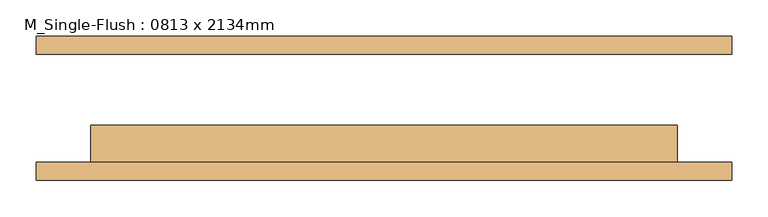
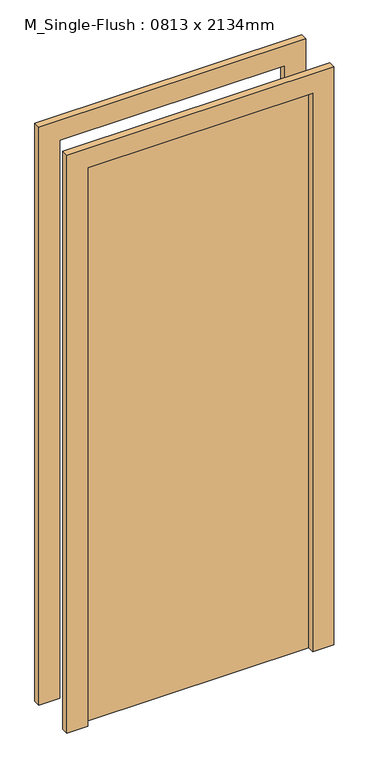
"""IFC4 building model written with IfcOpenShell, lengths in millimetres: door geometry, M_Single-Flush : 0813 x 2134mm."""

from ifc_helpers import new_model, si_unit, frame, origin, origin_with_axes, place, context, project, spatial, polyline, outline, extrude, source, transform, mapped, element, save


def m_single_flush_0813_x_2134mm_06630610(model_context):
    return source(origin(), model_context, "Body", "SweptSolid", [
        extrude(outline(polyline([(2210.0, -482.5), (0.0, -482.5), (0.0, -406.5), (2134.0, -406.5), (2134.0, 406.5), (0.0, 406.5), (0.0, 482.5), (2210.0, 482.5), (2210.0, -482.5)])), frame((0.0, -100.0, 0.0), z_axis=(0.0, 1.0, 0.0), x_axis=(0.0, 0.0, 1.0)), (0.0, 0.0, 1.0), 25.0),
        extrude(outline(polyline([(2210.0, 482.5), (2210.0, -482.5), (0.0, -482.5), (0.0, -406.5), (2134.0, -406.5), (2134.0, 406.5), (0.0, 406.5), (0.0, 482.5), (2210.0, 482.5)])), frame((0.0, 75.0, 0.0), z_axis=(0.0, 1.0, 0.0), x_axis=(0.0, 0.0, 1.0)), (0.0, 0.0, 1.0), 25.0),
        extrude(outline(polyline([(406.5, -24.0), (406.5, -75.0), (-406.5, -75.0), (-406.5, -24.0), (406.5, -24.0)])), origin_with_axes(), (0.0, 0.0, 1.0), 2134.0),
    ])


if __name__ == "__main__":
    model = new_model("IFC4")
    model_context = context("Model", 3, world=origin())
    ifc_project = project(units=[si_unit("LENGTHUNIT", "METRE", prefix="MILLI")], contexts=[model_context])
    site = spatial("IfcSite", under=ifc_project)
    building = spatial("IfcBuilding", under=site)
    placement = place(None, origin())
    m_single_flush_0813_x_2134mm_shape = m_single_flush_0813_x_2134mm_06630610(model_context)
    element("IfcDoor", 1, ObjectType="M_Single-Flush : 0813 x 2134mm", at=placement, inside=building, context=model_context, shape_type="MappedRepresentation", body=[
        mapped(m_single_flush_0813_x_2134mm_shape, transform((0.0, 0.0, 0.0), x_axis=(1.0, 0.0, 0.0), y_axis=(0.0, 1.0, 0.0), z_axis=(0.0, 0.0, 1.0))),
    ])
    save(model, "model.ifc")
